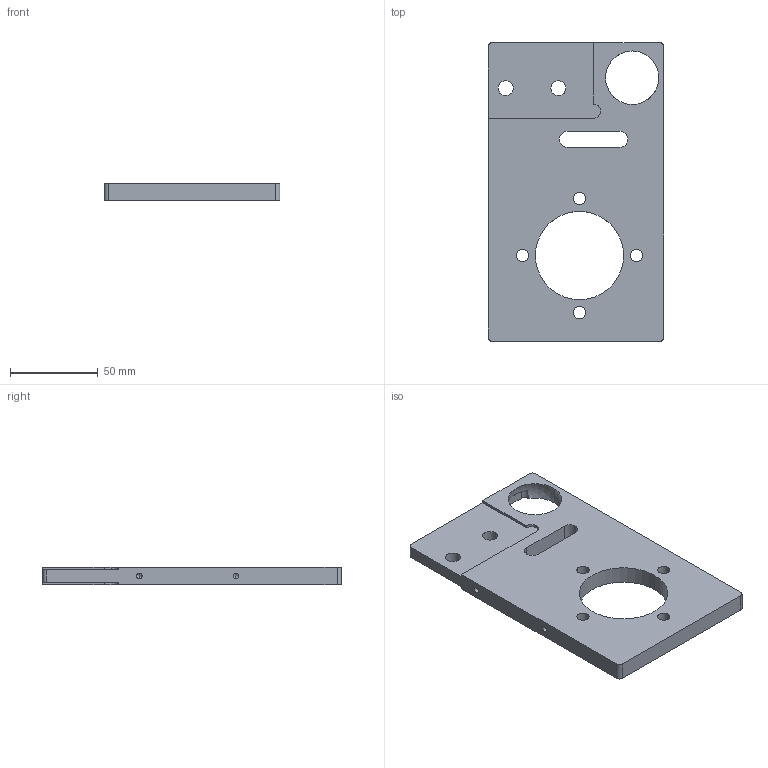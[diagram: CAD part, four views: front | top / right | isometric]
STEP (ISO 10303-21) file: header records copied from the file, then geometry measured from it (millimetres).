
FILE_DESCRIPTION (( 'STEP AP203' ), '1' );
FILE_NAME ('084.801.030.STEP', '2013-01-29T09:59:43', ( 'Alusic' ), ( 'Alusic' ), 'SwSTEP 2.0', 'SolidWorks 2011', '' );
FILE_SCHEMA (( 'CONFIG_CONTROL_DESIGN' ));
Length unit declared in the file: millimetre
Products named in the file (1): 084.801.030
Bounding box: 100 x 170 x 10 mm (x, y, z)
Volume: 128351 mm3; surface area: 37941.3 mm2
Topology: 1 solids, 1 shells, 68 faces, 190 edges, 120 vertices
Faces by surface type: cylinder 36, plane 22, cone 8, sphere 2
Entity records: 2285 total; most frequent: DIRECTION 402, CARTESIAN_POINT 391, ORIENTED_EDGE 364, EDGE_CURVE 182, AXIS2_PLACEMENT_3D 155, VERTEX_POINT 120, VECTOR 92, LINE 92
